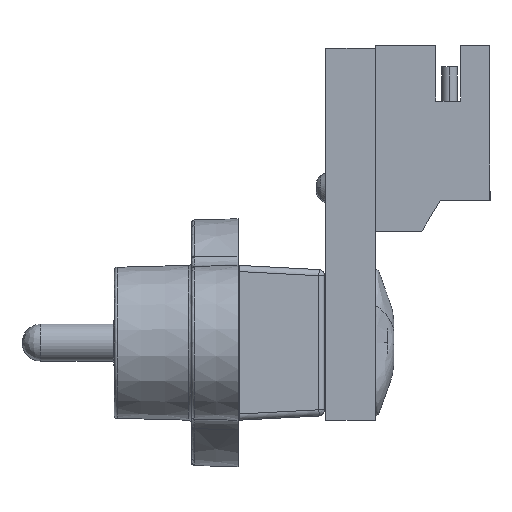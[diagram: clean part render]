
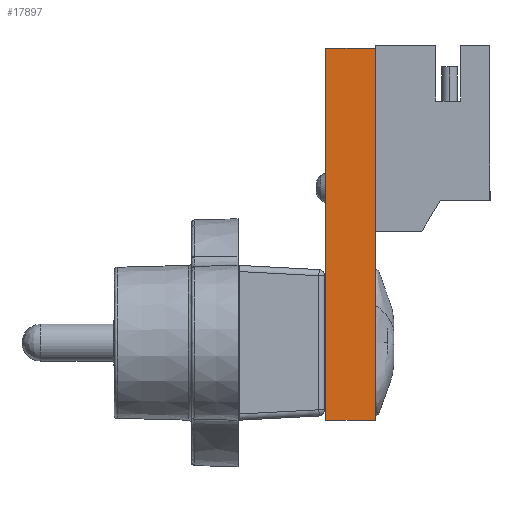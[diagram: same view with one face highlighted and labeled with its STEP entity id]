
A CAD part, left-side view. The second image highlights one B-rep face of the part: STEP entity #17897.
In plain terms, the highlighted planar face has unit normal (-1, 0, 0).
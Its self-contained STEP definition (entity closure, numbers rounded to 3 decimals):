
#223 = CARTESIAN_POINT ( 'NONE',  ( -5., 0., 0. ) ) ;
#483 = DIRECTION ( 'NONE',  ( 0., -1., 0. ) ) ;
#1602 = EDGE_LOOP ( 'NONE', ( #15323, #5982, #16959, #2475 ) ) ;
#1778 = FACE_OUTER_BOUND ( 'NONE', #1602, .T. ) ;
#1830 = CARTESIAN_POINT ( 'NONE',  ( -5., 1.6, 6. ) ) ;
#2475 = ORIENTED_EDGE ( 'NONE', *, *, #15251, .F. ) ;
#3191 = CARTESIAN_POINT ( 'NONE',  ( -5., 0., 6. ) ) ;
#3651 = CARTESIAN_POINT ( 'NONE',  ( -5., 1.6, 6. ) ) ;
#4689 = VECTOR ( 'NONE', #8874, 1000. ) ;
#4744 = AXIS2_PLACEMENT_3D ( 'NONE', #13667, #14747, #17685 ) ;
#5531 = VERTEX_POINT ( 'NONE', #10254 ) ;
#5694 = VERTEX_POINT ( 'NONE', #1830 ) ;
#5982 = ORIENTED_EDGE ( 'NONE', *, *, #12547, .F. ) ;
#7306 = VECTOR ( 'NONE', #483, 1000. ) ;
#7583 = EDGE_CURVE ( 'NONE', #5694, #12912, #12105, .T. ) ;
#7647 = CARTESIAN_POINT ( 'NONE',  ( -5., 1.6, 6. ) ) ;
#7673 = DIRECTION ( 'NONE',  ( 0., 0., -1. ) ) ;
#8874 = DIRECTION ( 'NONE',  ( 0., -1., 0. ) ) ;
#8944 = PLANE ( 'NONE',  #4744 ) ;
#10254 = CARTESIAN_POINT ( 'NONE',  ( -5., 0., -6. ) ) ;
#10416 = VECTOR ( 'NONE', #7673, 1000. ) ;
#11474 = CARTESIAN_POINT ( 'NONE',  ( -5., 1.6, -6. ) ) ;
#11862 = LINE ( 'NONE', #223, #10416 ) ;
#12105 = LINE ( 'NONE', #7647, #7306 ) ;
#12547 = EDGE_CURVE ( 'NONE', #16211, #5694, #18055, .T. ) ;
#12912 = VERTEX_POINT ( 'NONE', #3191 ) ;
#13149 = LINE ( 'NONE', #16081, #4689 ) ;
#13667 = CARTESIAN_POINT ( 'NONE',  ( -5., 1.6, 6. ) ) ;
#14747 = DIRECTION ( 'NONE',  ( 1., 0., 0. ) ) ;
#15251 = EDGE_CURVE ( 'NONE', #12912, #5531, #11862, .T. ) ;
#15303 = DIRECTION ( 'NONE',  ( 0., 0., 1. ) ) ;
#15323 = ORIENTED_EDGE ( 'NONE', *, *, #7583, .F. ) ;
#16081 = CARTESIAN_POINT ( 'NONE',  ( -5., 1.6, -6. ) ) ;
#16211 = VERTEX_POINT ( 'NONE', #11474 ) ;
#16691 = VECTOR ( 'NONE', #15303, 1000. ) ;
#16763 = EDGE_CURVE ( 'NONE', #16211, #5531, #13149, .T. ) ;
#16959 = ORIENTED_EDGE ( 'NONE', *, *, #16763, .T. ) ;
#17685 = DIRECTION ( 'NONE',  ( 0., 0., -1. ) ) ;
#17897 = ADVANCED_FACE ( 'NONE', ( #1778 ), #8944, .F. ) ;
#18055 = LINE ( 'NONE', #3651, #16691 ) ;
